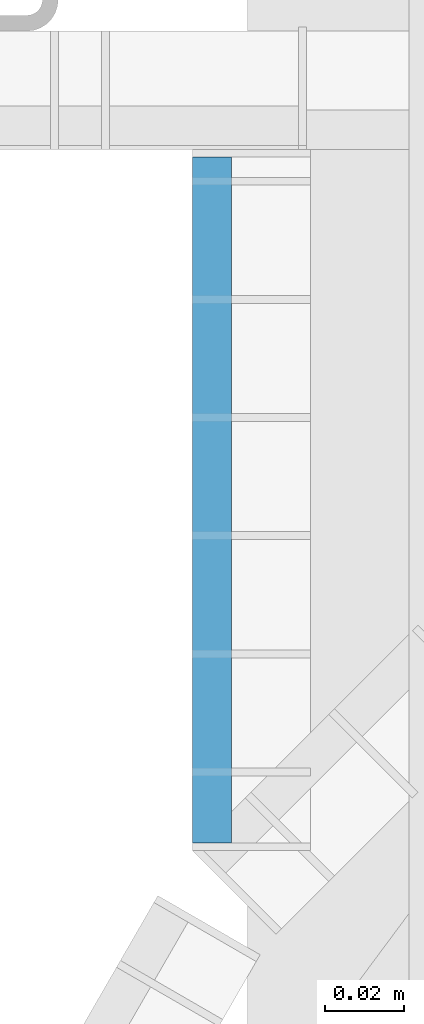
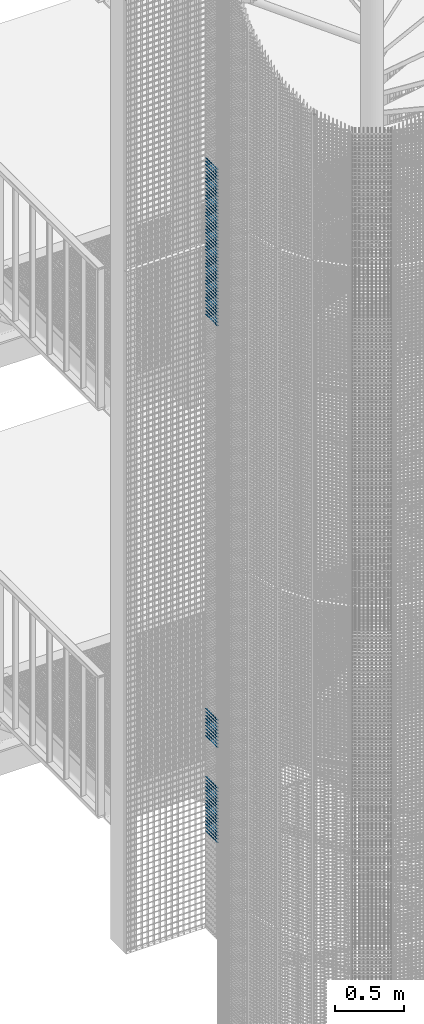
# One storey, part 176 of 1148: 73 beams, 2 elements without a shape of their own.
"""IFC2X3 building model written with IfcOpenShell, lengths in millimetres."""

from ifc_helpers import new_model, si_unit, frame, origin_with_axes, origin_2d_with_axis, place, context, subcontext, project, spatial, rectangle, extrude, material, type_object, element, aggregate, save


model = new_model("IFC2X3")

# Units and contexts
model_context = context("Model", 3, precision=1e-05, world=origin_with_axes())
body_context = subcontext(model_context, "Body", "Model", "MODEL_VIEW")
ifc_project = project(units=[si_unit("LENGTHUNIT", "METRE", prefix="MILLI"), si_unit("AREAUNIT", "SQUARE_METRE"), si_unit("VOLUMEUNIT", "CUBIC_METRE"), si_unit("MASSUNIT", "GRAM", prefix="KILO"), si_unit("TIMEUNIT", "SECOND"), si_unit("PLANEANGLEUNIT", "RADIAN"), si_unit("SOLIDANGLEUNIT", "STERADIAN"), si_unit("THERMODYNAMICTEMPERATUREUNIT", "DEGREE_CELSIUS"), si_unit("LUMINOUSINTENSITYUNIT", "LUMEN")], contexts=[model_context])

# Site, building, storey
site_placement = place(None, origin_with_axes())
site = spatial("IfcSite", under=ifc_project, at=site_placement, Name="Undefined", CompositionType="ELEMENT")
building_placement = place(site_placement, origin_with_axes())
building = spatial("IfcBuilding", under=site, at=building_placement, Name="Undefined", CompositionType="ELEMENT")
storey_placement = place(building_placement, origin_with_axes())
storey = spatial("IfcBuildingStorey", under=building, at=storey_placement, Name="Undefined", CompositionType="ELEMENT", Elevation=0.0)

# Assembly, beams
assembly_1_placement = place(storey_placement, origin_with_axes())
assembly_1 = element("IfcElementAssembly", 1, at=assembly_1_placement, inside=storey, Name="BORDURE", AssemblyPlace="NOTDEFINED", PredefinedType="NOTDEFINED")
ifc_material = material(Name="STEEL/S235JR")
beam_type = type_object("IfcBeamType", Name="PL2*10", PredefinedType="NOTDEFINED")
beam_1_placement = place(assembly_1_placement, frame((-884.882567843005, 867.997017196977, 6510.0), z_axis=(-1.0, 0.0, 0.0), x_axis=(0.0, -1.0, 0.0)))
beam_1 = element("IfcBeam", 2, at=beam_1_placement, type_object=beam_type, material=ifc_material, Name="ENTRETOISE", context=body_context, shape_type="SweptSolid", body=[
    extrude(rectangle(XDim=2.0, YDim=10.0, at=origin_2d_with_axis()), frame((174.109999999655, 0.0, 0.0), z_axis=(-1.0, 0.0, 0.0), x_axis=(0.0, -1.0, 0.0)), (0.0, 0.0, 1.0), 174.11),
])
beam_2_placement = place(assembly_1_placement, frame((-884.882567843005, 867.997017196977, 6480.0), z_axis=(-1.0, 0.0, 0.0), x_axis=(0.0, -1.0, 0.0)))
beam_2 = element("IfcBeam", 3, at=beam_2_placement, type_object=beam_type, material=ifc_material, Name="ENTRETOISE", context=body_context, shape_type="SweptSolid", body=[
    extrude(rectangle(XDim=2.0, YDim=10.0, at=origin_2d_with_axis()), frame((174.109999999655, 0.0, 0.0), z_axis=(-1.0, 0.0, 0.0), x_axis=(0.0, -1.0, 0.0)), (0.0, 0.0, 1.0), 174.11),
])
beam_3_placement = place(assembly_1_placement, frame((-884.882567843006, 867.997017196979, 6870.0), z_axis=(-1.0, 0.0, 0.0), x_axis=(0.0, -1.0, 0.0)))
beam_3 = element("IfcBeam", 4, at=beam_3_placement, type_object=beam_type, material=ifc_material, Name="ENTRETOISE", context=body_context, shape_type="SweptSolid", body=[
    extrude(rectangle(XDim=2.0, YDim=10.0, at=origin_2d_with_axis()), frame((174.109999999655, 0.0, 0.0), z_axis=(-1.0, 0.0, 0.0), x_axis=(0.0, -1.0, 0.0)), (0.0, 0.0, 1.0), 174.11),
])
beam_4_placement = place(assembly_1_placement, frame((-884.882567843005, 867.997017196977, 6450.0), z_axis=(-1.0, 0.0, 0.0), x_axis=(0.0, -1.0, 0.0)))
beam_4 = element("IfcBeam", 5, at=beam_4_placement, type_object=beam_type, material=ifc_material, Name="ENTRETOISE", context=body_context, shape_type="SweptSolid", body=[
    extrude(rectangle(XDim=2.0, YDim=10.0, at=origin_2d_with_axis()), frame((174.109999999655, 0.0, 0.0), z_axis=(-1.0, 0.0, 0.0), x_axis=(0.0, -1.0, 0.0)), (0.0, 0.0, 1.0), 174.11),
])
beam_5_placement = place(assembly_1_placement, frame((-884.882567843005, 867.997017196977, 6420.0), z_axis=(-1.0, 0.0, 0.0), x_axis=(0.0, -1.0, 0.0)))
beam_5 = element("IfcBeam", 6, at=beam_5_placement, type_object=beam_type, material=ifc_material, Name="ENTRETOISE", context=body_context, shape_type="SweptSolid", body=[
    extrude(rectangle(XDim=2.0, YDim=10.0, at=origin_2d_with_axis()), frame((174.109999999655, 0.0, 0.0), z_axis=(-1.0, 0.0, 0.0), x_axis=(0.0, -1.0, 0.0)), (0.0, 0.0, 1.0), 174.11),
])
beam_6_placement = place(assembly_1_placement, frame((-884.882567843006, 867.997017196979, 6900.0), z_axis=(-1.0, 0.0, 0.0), x_axis=(0.0, -1.0, 0.0)))
beam_6 = element("IfcBeam", 7, at=beam_6_placement, type_object=beam_type, material=ifc_material, Name="ENTRETOISE", context=body_context, shape_type="SweptSolid", body=[
    extrude(rectangle(XDim=2.0, YDim=10.0, at=origin_2d_with_axis()), frame((174.109999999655, 0.0, 0.0), z_axis=(-1.0, 0.0, 0.0), x_axis=(0.0, -1.0, 0.0)), (0.0, 0.0, 1.0), 174.11),
])
beam_7_placement = place(assembly_1_placement, frame((-884.882567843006, 867.997017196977, 6390.0), z_axis=(-1.0, 0.0, 0.0), x_axis=(0.0, -1.0, 0.0)))
beam_7 = element("IfcBeam", 8, at=beam_7_placement, type_object=beam_type, material=ifc_material, Name="ENTRETOISE", context=body_context, shape_type="SweptSolid", body=[
    extrude(rectangle(XDim=2.0, YDim=10.0, at=origin_2d_with_axis()), frame((174.109999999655, 0.0, 0.0), z_axis=(-1.0, 0.0, 0.0), x_axis=(0.0, -1.0, 0.0)), (0.0, 0.0, 1.0), 174.11),
])
beam_8_placement = place(assembly_1_placement, frame((-884.882567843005, 867.997017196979, 6930.0), z_axis=(-1.0, 0.0, 0.0), x_axis=(0.0, -1.0, 0.0)))
beam_8 = element("IfcBeam", 9, at=beam_8_placement, type_object=beam_type, material=ifc_material, Name="ENTRETOISE", context=body_context, shape_type="SweptSolid", body=[
    extrude(rectangle(XDim=2.0, YDim=10.0, at=origin_2d_with_axis()), frame((174.109999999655, 0.0, 0.0), z_axis=(-1.0, 0.0, 0.0), x_axis=(0.0, -1.0, 0.0)), (0.0, 0.0, 1.0), 174.11),
])
beam_9_placement = place(assembly_1_placement, frame((-884.882567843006, 867.997017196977, 6360.0), z_axis=(-1.0, 0.0, 0.0), x_axis=(0.0, -1.0, 0.0)))
beam_9 = element("IfcBeam", 10, at=beam_9_placement, type_object=beam_type, material=ifc_material, Name="ENTRETOISE", context=body_context, shape_type="SweptSolid", body=[
    extrude(rectangle(XDim=2.0, YDim=10.0, at=origin_2d_with_axis()), frame((174.109999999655, 0.0, 0.0), z_axis=(-1.0, 0.0, 0.0), x_axis=(0.0, -1.0, 0.0)), (0.0, 0.0, 1.0), 174.11),
])
beam_10_placement = place(assembly_1_placement, frame((-884.882567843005, 867.997017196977, 6330.0), z_axis=(-1.0, 0.0, 0.0), x_axis=(0.0, -1.0, 0.0)))
beam_10 = element("IfcBeam", 11, at=beam_10_placement, type_object=beam_type, material=ifc_material, Name="ENTRETOISE", context=body_context, shape_type="SweptSolid", body=[
    extrude(rectangle(XDim=2.0, YDim=10.0, at=origin_2d_with_axis()), frame((174.109999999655, 0.0, 0.0), z_axis=(-1.0, 0.0, 0.0), x_axis=(0.0, -1.0, 0.0)), (0.0, 0.0, 1.0), 174.11),
])
beam_11_placement = place(assembly_1_placement, frame((-884.882567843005, 867.997017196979, 6960.0), z_axis=(-1.0, 0.0, 0.0), x_axis=(0.0, -1.0, 0.0)))
beam_11 = element("IfcBeam", 12, at=beam_11_placement, type_object=beam_type, material=ifc_material, Name="ENTRETOISE", context=body_context, shape_type="SweptSolid", body=[
    extrude(rectangle(XDim=2.0, YDim=10.0, at=origin_2d_with_axis()), frame((174.109999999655, 0.0, 0.0), z_axis=(-1.0, 0.0, 0.0), x_axis=(0.0, -1.0, 0.0)), (0.0, 0.0, 1.0), 174.11),
])
beam_12_placement = place(assembly_1_placement, frame((-884.882567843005, 867.997017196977, 6300.0), z_axis=(-1.0, 0.0, 0.0), x_axis=(0.0, -1.0, 0.0)))
beam_12 = element("IfcBeam", 13, at=beam_12_placement, type_object=beam_type, material=ifc_material, Name="ENTRETOISE", context=body_context, shape_type="SweptSolid", body=[
    extrude(rectangle(XDim=2.0, YDim=10.0, at=origin_2d_with_axis()), frame((174.109999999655, 0.0, 0.0), z_axis=(-1.0, 0.0, 0.0), x_axis=(0.0, -1.0, 0.0)), (0.0, 0.0, 1.0), 174.11),
])
beam_13_placement = place(assembly_1_placement, frame((-884.882567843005, 867.997017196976, 6270.0), z_axis=(-1.0, 0.0, 0.0), x_axis=(0.0, -1.0, 0.0)))
beam_13 = element("IfcBeam", 14, at=beam_13_placement, type_object=beam_type, material=ifc_material, Name="ENTRETOISE", context=body_context, shape_type="SweptSolid", body=[
    extrude(rectangle(XDim=2.0, YDim=10.0, at=origin_2d_with_axis()), frame((174.109999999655, 0.0, 0.0), z_axis=(-1.0, 0.0, 0.0), x_axis=(0.0, -1.0, 0.0)), (0.0, 0.0, 1.0), 174.11),
])
beam_14_placement = place(assembly_1_placement, frame((-884.882567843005, 867.997017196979, 6990.0), z_axis=(-1.0, 0.0, 0.0), x_axis=(0.0, -1.0, 0.0)))
beam_14 = element("IfcBeam", 15, at=beam_14_placement, type_object=beam_type, material=ifc_material, Name="ENTRETOISE", context=body_context, shape_type="SweptSolid", body=[
    extrude(rectangle(XDim=2.0, YDim=10.0, at=origin_2d_with_axis()), frame((174.109999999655, 0.0, 0.0), z_axis=(-1.0, 0.0, 0.0), x_axis=(0.0, -1.0, 0.0)), (0.0, 0.0, 1.0), 174.11),
])
beam_15_placement = place(assembly_1_placement, frame((-884.882567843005, 867.997017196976, 6240.0), z_axis=(-1.0, 0.0, 0.0), x_axis=(0.0, -1.0, 0.0)))
beam_15 = element("IfcBeam", 16, at=beam_15_placement, type_object=beam_type, material=ifc_material, Name="ENTRETOISE", context=body_context, shape_type="SweptSolid", body=[
    extrude(rectangle(XDim=2.0, YDim=10.0, at=origin_2d_with_axis()), frame((174.109999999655, 0.0, 0.0), z_axis=(-1.0, 0.0, 0.0), x_axis=(0.0, -1.0, 0.0)), (0.0, 0.0, 1.0), 174.11),
])
beam_16_placement = place(assembly_1_placement, frame((-884.882567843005, 867.997017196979, 7020.0), z_axis=(-1.0, 0.0, 0.0), x_axis=(0.0, -1.0, 0.0)))
beam_16 = element("IfcBeam", 17, at=beam_16_placement, type_object=beam_type, material=ifc_material, Name="ENTRETOISE", context=body_context, shape_type="SweptSolid", body=[
    extrude(rectangle(XDim=2.0, YDim=10.0, at=origin_2d_with_axis()), frame((174.109999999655, 0.0, 0.0), z_axis=(-1.0, 0.0, 0.0), x_axis=(0.0, -1.0, 0.0)), (0.0, 0.0, 1.0), 174.11),
])
beam_17_placement = place(assembly_1_placement, frame((-884.882567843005, 867.997017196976, 6210.0), z_axis=(-1.0, 0.0, 0.0), x_axis=(0.0, -1.0, 0.0)))
beam_17 = element("IfcBeam", 18, at=beam_17_placement, type_object=beam_type, material=ifc_material, Name="ENTRETOISE", context=body_context, shape_type="SweptSolid", body=[
    extrude(rectangle(XDim=2.0, YDim=10.0, at=origin_2d_with_axis()), frame((174.109999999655, 0.0, 0.0), z_axis=(-1.0, 0.0, 0.0), x_axis=(0.0, -1.0, 0.0)), (0.0, 0.0, 1.0), 174.11),
])
beam_18_placement = place(assembly_1_placement, frame((-884.882567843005, 867.997017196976, 6180.0), z_axis=(-1.0, 0.0, 0.0), x_axis=(0.0, -1.0, 0.0)))
beam_18 = element("IfcBeam", 19, at=beam_18_placement, type_object=beam_type, material=ifc_material, Name="ENTRETOISE", context=body_context, shape_type="SweptSolid", body=[
    extrude(rectangle(XDim=2.0, YDim=10.0, at=origin_2d_with_axis()), frame((174.109999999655, 0.0, 0.0), z_axis=(-1.0, 0.0, 0.0), x_axis=(0.0, -1.0, 0.0)), (0.0, 0.0, 1.0), 174.11),
])
beam_19_placement = place(assembly_1_placement, frame((-884.882567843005, 867.997017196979, 7050.0), z_axis=(-1.0, 0.0, 0.0), x_axis=(0.0, -1.0, 0.0)))
beam_19 = element("IfcBeam", 20, at=beam_19_placement, type_object=beam_type, material=ifc_material, Name="ENTRETOISE", context=body_context, shape_type="SweptSolid", body=[
    extrude(rectangle(XDim=2.0, YDim=10.0, at=origin_2d_with_axis()), frame((174.109999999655, 0.0, 0.0), z_axis=(-1.0, 0.0, 0.0), x_axis=(0.0, -1.0, 0.0)), (0.0, 0.0, 1.0), 174.11),
])
beam_20_placement = place(assembly_1_placement, frame((-884.882567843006, 867.997017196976, 6150.0), z_axis=(-1.0, 0.0, 0.0), x_axis=(0.0, -1.0, 0.0)))
beam_20 = element("IfcBeam", 21, at=beam_20_placement, type_object=beam_type, material=ifc_material, Name="ENTRETOISE", context=body_context, shape_type="SweptSolid", body=[
    extrude(rectangle(XDim=2.0, YDim=10.0, at=origin_2d_with_axis()), frame((174.109999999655, 0.0, 0.0), z_axis=(-1.0, 0.0, 0.0), x_axis=(0.0, -1.0, 0.0)), (0.0, 0.0, 1.0), 174.11),
])
beam_21_placement = place(assembly_1_placement, frame((-884.882567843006, 867.997017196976, 6120.0), z_axis=(-1.0, 0.0, 0.0), x_axis=(0.0, -1.0, 0.0)))
beam_21 = element("IfcBeam", 22, at=beam_21_placement, type_object=beam_type, material=ifc_material, Name="ENTRETOISE", context=body_context, shape_type="SweptSolid", body=[
    extrude(rectangle(XDim=2.0, YDim=10.0, at=origin_2d_with_axis()), frame((174.109999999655, 0.0, 0.0), z_axis=(-1.0, 0.0, 0.0), x_axis=(0.0, -1.0, 0.0)), (0.0, 0.0, 1.0), 174.11),
])
beam_22_placement = place(assembly_1_placement, frame((-884.882567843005, 867.997017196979, 7080.0), z_axis=(-1.0, 0.0, 0.0), x_axis=(0.0, -1.0, 0.0)))
beam_22 = element("IfcBeam", 23, at=beam_22_placement, type_object=beam_type, material=ifc_material, Name="ENTRETOISE", context=body_context, shape_type="SweptSolid", body=[
    extrude(rectangle(XDim=2.0, YDim=10.0, at=origin_2d_with_axis()), frame((174.109999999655, 0.0, 0.0), z_axis=(-1.0, 0.0, 0.0), x_axis=(0.0, -1.0, 0.0)), (0.0, 0.0, 1.0), 174.11),
])
beam_23_placement = place(assembly_1_placement, frame((-884.882567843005, 867.997017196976, 6090.0), z_axis=(-1.0, 0.0, 0.0), x_axis=(0.0, -1.0, 0.0)))
beam_23 = element("IfcBeam", 24, at=beam_23_placement, type_object=beam_type, material=ifc_material, Name="ENTRETOISE", context=body_context, shape_type="SweptSolid", body=[
    extrude(rectangle(XDim=2.0, YDim=10.0, at=origin_2d_with_axis()), frame((174.109999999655, 0.0, 0.0), z_axis=(-1.0, 0.0, 0.0), x_axis=(0.0, -1.0, 0.0)), (0.0, 0.0, 1.0), 174.11),
])
beam_24_placement = place(assembly_1_placement, frame((-884.882567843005, 867.997017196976, 6060.0), z_axis=(-1.0, 0.0, 0.0), x_axis=(0.0, -1.0, 0.0)))
beam_24 = element("IfcBeam", 25, at=beam_24_placement, type_object=beam_type, material=ifc_material, Name="ENTRETOISE", context=body_context, shape_type="SweptSolid", body=[
    extrude(rectangle(XDim=2.0, YDim=10.0, at=origin_2d_with_axis()), frame((174.109999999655, 0.0, 0.0), z_axis=(-1.0, 0.0, 0.0), x_axis=(0.0, -1.0, 0.0)), (0.0, 0.0, 1.0), 174.11),
])
beam_25_placement = place(assembly_1_placement, frame((-884.882567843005, 867.99701719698, 7110.0), z_axis=(-1.0, 0.0, 0.0), x_axis=(0.0, -1.0, 0.0)))
beam_25 = element("IfcBeam", 26, at=beam_25_placement, type_object=beam_type, material=ifc_material, Name="ENTRETOISE", context=body_context, shape_type="SweptSolid", body=[
    extrude(rectangle(XDim=2.0, YDim=10.0, at=origin_2d_with_axis()), frame((174.109999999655, 0.0, 0.0), z_axis=(-1.0, 0.0, 0.0), x_axis=(0.0, -1.0, 0.0)), (0.0, 0.0, 1.0), 174.11),
])
beam_26_placement = place(assembly_1_placement, frame((-884.882567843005, 867.997017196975, 6030.0), z_axis=(-1.0, 0.0, 0.0), x_axis=(0.0, -1.0, 0.0)))
beam_26 = element("IfcBeam", 27, at=beam_26_placement, type_object=beam_type, material=ifc_material, Name="ENTRETOISE", context=body_context, shape_type="SweptSolid", body=[
    extrude(rectangle(XDim=2.0, YDim=10.0, at=origin_2d_with_axis()), frame((174.109999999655, 0.0, 0.0), z_axis=(-1.0, 0.0, 0.0), x_axis=(0.0, -1.0, 0.0)), (0.0, 0.0, 1.0), 174.11),
])
aggregate(assembly_1, [beam_1, beam_2, beam_3, beam_4, beam_5, beam_6, beam_7, beam_8, beam_9, beam_10, beam_11, beam_12, beam_13, beam_14, beam_15, beam_16, beam_17, beam_18, beam_19, beam_20, beam_21, beam_22, beam_23, beam_24, beam_25, beam_26])

assembly_2_placement = place(storey_placement, origin_with_axes())
assembly_2 = element("IfcElementAssembly", 28, at=assembly_2_placement, inside=storey, Name="BORDURE", AssemblyPlace="NOTDEFINED", PredefinedType="NOTDEFINED")
beam_27_placement = place(assembly_2_placement, frame((-884.882567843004, 867.997017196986, 11970.0), z_axis=(-1.0, 0.0, 0.0), x_axis=(0.0, -1.0, 0.0)))
beam_27 = element("IfcBeam", 29, at=beam_27_placement, type_object=beam_type, material=ifc_material, Name="ENTRETOISE", context=body_context, shape_type="SweptSolid", body=[
    extrude(rectangle(XDim=2.0, YDim=10.0, at=origin_2d_with_axis()), frame((174.109999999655, 0.0, 0.0), z_axis=(-1.0, 0.0, 0.0), x_axis=(0.0, -1.0, 0.0)), (0.0, 0.0, 1.0), 174.11),
])
beam_28_placement = place(assembly_2_placement, frame((-884.882567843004, 867.997017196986, 11940.0), z_axis=(-1.0, 0.0, 0.0), x_axis=(0.0, -1.0, 0.0)))
beam_28 = element("IfcBeam", 30, at=beam_28_placement, type_object=beam_type, material=ifc_material, Name="ENTRETOISE", context=body_context, shape_type="SweptSolid", body=[
    extrude(rectangle(XDim=2.0, YDim=10.0, at=origin_2d_with_axis()), frame((174.109999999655, 0.0, 0.0), z_axis=(-1.0, 0.0, 0.0), x_axis=(0.0, -1.0, 0.0)), (0.0, 0.0, 1.0), 174.11),
])
beam_29_placement = place(assembly_2_placement, frame((-884.882567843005, 867.997017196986, 11910.0), z_axis=(-1.0, 0.0, 0.0), x_axis=(0.0, -1.0, 0.0)))
beam_29 = element("IfcBeam", 31, at=beam_29_placement, type_object=beam_type, material=ifc_material, Name="ENTRETOISE", context=body_context, shape_type="SweptSolid", body=[
    extrude(rectangle(XDim=2.0, YDim=10.0, at=origin_2d_with_axis()), frame((174.109999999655, 0.0, 0.0), z_axis=(-1.0, 0.0, 0.0), x_axis=(0.0, -1.0, 0.0)), (0.0, 0.0, 1.0), 174.11),
])
beam_30_placement = place(assembly_2_placement, frame((-884.882567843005, 867.997017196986, 11880.0), z_axis=(-1.0, 0.0, 0.0), x_axis=(0.0, -1.0, 0.0)))
beam_30 = element("IfcBeam", 32, at=beam_30_placement, type_object=beam_type, material=ifc_material, Name="ENTRETOISE", context=body_context, shape_type="SweptSolid", body=[
    extrude(rectangle(XDim=2.0, YDim=10.0, at=origin_2d_with_axis()), frame((174.109999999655, 0.0, 0.0), z_axis=(-1.0, 0.0, 0.0), x_axis=(0.0, -1.0, 0.0)), (0.0, 0.0, 1.0), 174.11),
])
beam_31_placement = place(assembly_2_placement, frame((-884.882567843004, 867.997017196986, 11850.0), z_axis=(-1.0, 0.0, 0.0), x_axis=(0.0, -1.0, 0.0)))
beam_31 = element("IfcBeam", 33, at=beam_31_placement, type_object=beam_type, material=ifc_material, Name="ENTRETOISE", context=body_context, shape_type="SweptSolid", body=[
    extrude(rectangle(XDim=2.0, YDim=10.0, at=origin_2d_with_axis()), frame((174.109999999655, 0.0, 0.0), z_axis=(-1.0, 0.0, 0.0), x_axis=(0.0, -1.0, 0.0)), (0.0, 0.0, 1.0), 174.11),
])
beam_32_placement = place(assembly_2_placement, frame((-884.882567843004, 867.997017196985, 11820.0), z_axis=(-1.0, 0.0, 0.0), x_axis=(0.0, -1.0, 0.0)))
beam_32 = element("IfcBeam", 34, at=beam_32_placement, type_object=beam_type, material=ifc_material, Name="ENTRETOISE", context=body_context, shape_type="SweptSolid", body=[
    extrude(rectangle(XDim=2.0, YDim=10.0, at=origin_2d_with_axis()), frame((174.109999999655, 0.0, 0.0), z_axis=(-1.0, 0.0, 0.0), x_axis=(0.0, -1.0, 0.0)), (0.0, 0.0, 1.0), 174.11),
])
beam_33_placement = place(assembly_2_placement, frame((-884.882567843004, 867.997017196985, 11790.0), z_axis=(-1.0, 0.0, 0.0), x_axis=(0.0, -1.0, 0.0)))
beam_33 = element("IfcBeam", 35, at=beam_33_placement, type_object=beam_type, material=ifc_material, Name="ENTRETOISE", context=body_context, shape_type="SweptSolid", body=[
    extrude(rectangle(XDim=2.0, YDim=10.0, at=origin_2d_with_axis()), frame((174.109999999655, 0.0, 0.0), z_axis=(-1.0, 0.0, 0.0), x_axis=(0.0, -1.0, 0.0)), (0.0, 0.0, 1.0), 174.11),
])
beam_34_placement = place(assembly_2_placement, frame((-884.882567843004, 867.997017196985, 11760.0), z_axis=(-1.0, 0.0, 0.0), x_axis=(0.0, -1.0, 0.0)))
beam_34 = element("IfcBeam", 36, at=beam_34_placement, type_object=beam_type, material=ifc_material, Name="ENTRETOISE", context=body_context, shape_type="SweptSolid", body=[
    extrude(rectangle(XDim=2.0, YDim=10.0, at=origin_2d_with_axis()), frame((174.109999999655, 0.0, 0.0), z_axis=(-1.0, 0.0, 0.0), x_axis=(0.0, -1.0, 0.0)), (0.0, 0.0, 1.0), 174.11),
])
beam_35_placement = place(assembly_2_placement, frame((-884.882567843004, 867.997017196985, 11730.0), z_axis=(-1.0, 0.0, 0.0), x_axis=(0.0, -1.0, 0.0)))
beam_35 = element("IfcBeam", 37, at=beam_35_placement, type_object=beam_type, material=ifc_material, Name="ENTRETOISE", context=body_context, shape_type="SweptSolid", body=[
    extrude(rectangle(XDim=2.0, YDim=10.0, at=origin_2d_with_axis()), frame((174.109999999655, 0.0, 0.0), z_axis=(-1.0, 0.0, 0.0), x_axis=(0.0, -1.0, 0.0)), (0.0, 0.0, 1.0), 174.11),
])
beam_36_placement = place(assembly_2_placement, frame((-884.882567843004, 867.997017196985, 11700.0), z_axis=(-1.0, 0.0, 0.0), x_axis=(0.0, -1.0, 0.0)))
beam_36 = element("IfcBeam", 38, at=beam_36_placement, type_object=beam_type, material=ifc_material, Name="ENTRETOISE", context=body_context, shape_type="SweptSolid", body=[
    extrude(rectangle(XDim=2.0, YDim=10.0, at=origin_2d_with_axis()), frame((174.109999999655, 0.0, 0.0), z_axis=(-1.0, 0.0, 0.0), x_axis=(0.0, -1.0, 0.0)), (0.0, 0.0, 1.0), 174.11),
])
beam_37_placement = place(assembly_2_placement, frame((-884.882567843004, 867.997017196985, 11670.0), z_axis=(-1.0, 0.0, 0.0), x_axis=(0.0, -1.0, 0.0)))
beam_37 = element("IfcBeam", 39, at=beam_37_placement, type_object=beam_type, material=ifc_material, Name="ENTRETOISE", context=body_context, shape_type="SweptSolid", body=[
    extrude(rectangle(XDim=2.0, YDim=10.0, at=origin_2d_with_axis()), frame((174.109999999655, 0.0, 0.0), z_axis=(-1.0, 0.0, 0.0), x_axis=(0.0, -1.0, 0.0)), (0.0, 0.0, 1.0), 174.11),
])
beam_38_placement = place(assembly_2_placement, frame((-884.882567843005, 867.997017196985, 11640.0), z_axis=(-1.0, 0.0, 0.0), x_axis=(0.0, -1.0, 0.0)))
beam_38 = element("IfcBeam", 40, at=beam_38_placement, type_object=beam_type, material=ifc_material, Name="ENTRETOISE", context=body_context, shape_type="SweptSolid", body=[
    extrude(rectangle(XDim=2.0, YDim=10.0, at=origin_2d_with_axis()), frame((174.109999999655, 0.0, 0.0), z_axis=(-1.0, 0.0, 0.0), x_axis=(0.0, -1.0, 0.0)), (0.0, 0.0, 1.0), 174.11),
])
beam_39_placement = place(assembly_2_placement, frame((-884.882567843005, 867.997017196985, 11610.0), z_axis=(-1.0, 0.0, 0.0), x_axis=(0.0, -1.0, 0.0)))
beam_39 = element("IfcBeam", 41, at=beam_39_placement, type_object=beam_type, material=ifc_material, Name="ENTRETOISE", context=body_context, shape_type="SweptSolid", body=[
    extrude(rectangle(XDim=2.0, YDim=10.0, at=origin_2d_with_axis()), frame((174.109999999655, 0.0, 0.0), z_axis=(-1.0, 0.0, 0.0), x_axis=(0.0, -1.0, 0.0)), (0.0, 0.0, 1.0), 174.11),
])
beam_40_placement = place(assembly_2_placement, frame((-884.882567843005, 867.997017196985, 11580.0), z_axis=(-1.0, 0.0, 0.0), x_axis=(0.0, -1.0, 0.0)))
beam_40 = element("IfcBeam", 42, at=beam_40_placement, type_object=beam_type, material=ifc_material, Name="ENTRETOISE", context=body_context, shape_type="SweptSolid", body=[
    extrude(rectangle(XDim=2.0, YDim=10.0, at=origin_2d_with_axis()), frame((174.109999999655, 0.0, 0.0), z_axis=(-1.0, 0.0, 0.0), x_axis=(0.0, -1.0, 0.0)), (0.0, 0.0, 1.0), 174.11),
])
beam_41_placement = place(assembly_2_placement, frame((-884.882567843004, 867.997017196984, 11550.0), z_axis=(-1.0, 0.0, 0.0), x_axis=(0.0, -1.0, 0.0)))
beam_41 = element("IfcBeam", 43, at=beam_41_placement, type_object=beam_type, material=ifc_material, Name="ENTRETOISE", context=body_context, shape_type="SweptSolid", body=[
    extrude(rectangle(XDim=2.0, YDim=10.0, at=origin_2d_with_axis()), frame((174.109999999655, 0.0, 0.0), z_axis=(-1.0, 0.0, 0.0), x_axis=(0.0, -1.0, 0.0)), (0.0, 0.0, 1.0), 174.11),
])
beam_42_placement = place(assembly_2_placement, frame((-884.882567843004, 867.997017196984, 11520.0), z_axis=(-1.0, 0.0, 0.0), x_axis=(0.0, -1.0, 0.0)))
beam_42 = element("IfcBeam", 44, at=beam_42_placement, type_object=beam_type, material=ifc_material, Name="ENTRETOISE", context=body_context, shape_type="SweptSolid", body=[
    extrude(rectangle(XDim=2.0, YDim=10.0, at=origin_2d_with_axis()), frame((174.109999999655, 0.0, 0.0), z_axis=(-1.0, 0.0, 0.0), x_axis=(0.0, -1.0, 0.0)), (0.0, 0.0, 1.0), 174.11),
])
beam_43_placement = place(assembly_2_placement, frame((-884.882567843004, 867.997017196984, 11490.0), z_axis=(-1.0, 0.0, 0.0), x_axis=(0.0, -1.0, 0.0)))
beam_43 = element("IfcBeam", 45, at=beam_43_placement, type_object=beam_type, material=ifc_material, Name="ENTRETOISE", context=body_context, shape_type="SweptSolid", body=[
    extrude(rectangle(XDim=2.0, YDim=10.0, at=origin_2d_with_axis()), frame((174.109999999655, 0.0, 0.0), z_axis=(-1.0, 0.0, 0.0), x_axis=(0.0, -1.0, 0.0)), (0.0, 0.0, 1.0), 174.11),
])
beam_44_placement = place(assembly_2_placement, frame((-884.882567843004, 867.997017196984, 11460.0), z_axis=(-1.0, 0.0, 0.0), x_axis=(0.0, -1.0, 0.0)))
beam_44 = element("IfcBeam", 46, at=beam_44_placement, type_object=beam_type, material=ifc_material, Name="ENTRETOISE", context=body_context, shape_type="SweptSolid", body=[
    extrude(rectangle(XDim=2.0, YDim=10.0, at=origin_2d_with_axis()), frame((174.109999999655, 0.0, 0.0), z_axis=(-1.0, 0.0, 0.0), x_axis=(0.0, -1.0, 0.0)), (0.0, 0.0, 1.0), 174.11),
])
beam_45_placement = place(assembly_2_placement, frame((-884.882567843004, 867.997017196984, 11430.0), z_axis=(-1.0, 0.0, 0.0), x_axis=(0.0, -1.0, 0.0)))
beam_45 = element("IfcBeam", 47, at=beam_45_placement, type_object=beam_type, material=ifc_material, Name="ENTRETOISE", context=body_context, shape_type="SweptSolid", body=[
    extrude(rectangle(XDim=2.0, YDim=10.0, at=origin_2d_with_axis()), frame((174.109999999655, 0.0, 0.0), z_axis=(-1.0, 0.0, 0.0), x_axis=(0.0, -1.0, 0.0)), (0.0, 0.0, 1.0), 174.11),
])
beam_46_placement = place(assembly_2_placement, frame((-884.882567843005, 867.997017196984, 11400.0), z_axis=(-1.0, 0.0, 0.0), x_axis=(0.0, -1.0, 0.0)))
beam_46 = element("IfcBeam", 48, at=beam_46_placement, type_object=beam_type, material=ifc_material, Name="ENTRETOISE", context=body_context, shape_type="SweptSolid", body=[
    extrude(rectangle(XDim=2.0, YDim=10.0, at=origin_2d_with_axis()), frame((174.109999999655, 0.0, 0.0), z_axis=(-1.0, 0.0, 0.0), x_axis=(0.0, -1.0, 0.0)), (0.0, 0.0, 1.0), 174.11),
])
beam_47_placement = place(assembly_2_placement, frame((-884.882567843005, 867.997017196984, 11370.0), z_axis=(-1.0, 0.0, 0.0), x_axis=(0.0, -1.0, 0.0)))
beam_47 = element("IfcBeam", 49, at=beam_47_placement, type_object=beam_type, material=ifc_material, Name="ENTRETOISE", context=body_context, shape_type="SweptSolid", body=[
    extrude(rectangle(XDim=2.0, YDim=10.0, at=origin_2d_with_axis()), frame((174.109999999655, 0.0, 0.0), z_axis=(-1.0, 0.0, 0.0), x_axis=(0.0, -1.0, 0.0)), (0.0, 0.0, 1.0), 174.11),
])
beam_48_placement = place(assembly_2_placement, frame((-884.882567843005, 867.997017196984, 11340.0), z_axis=(-1.0, 0.0, 0.0), x_axis=(0.0, -1.0, 0.0)))
beam_48 = element("IfcBeam", 50, at=beam_48_placement, type_object=beam_type, material=ifc_material, Name="ENTRETOISE", context=body_context, shape_type="SweptSolid", body=[
    extrude(rectangle(XDim=2.0, YDim=10.0, at=origin_2d_with_axis()), frame((174.109999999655, 0.0, 0.0), z_axis=(-1.0, 0.0, 0.0), x_axis=(0.0, -1.0, 0.0)), (0.0, 0.0, 1.0), 174.11),
])
beam_49_placement = place(assembly_2_placement, frame((-884.882567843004, 867.997017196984, 11310.0), z_axis=(-1.0, 0.0, 0.0), x_axis=(0.0, -1.0, 0.0)))
beam_49 = element("IfcBeam", 51, at=beam_49_placement, type_object=beam_type, material=ifc_material, Name="ENTRETOISE", context=body_context, shape_type="SweptSolid", body=[
    extrude(rectangle(XDim=2.0, YDim=10.0, at=origin_2d_with_axis()), frame((174.109999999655, 0.0, 0.0), z_axis=(-1.0, 0.0, 0.0), x_axis=(0.0, -1.0, 0.0)), (0.0, 0.0, 1.0), 174.11),
])
beam_50_placement = place(assembly_2_placement, frame((-884.882567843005, 867.997017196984, 11280.0), z_axis=(-1.0, 0.0, 0.0), x_axis=(0.0, -1.0, 0.0)))
beam_50 = element("IfcBeam", 52, at=beam_50_placement, type_object=beam_type, material=ifc_material, Name="ENTRETOISE", context=body_context, shape_type="SweptSolid", body=[
    extrude(rectangle(XDim=2.0, YDim=10.0, at=origin_2d_with_axis()), frame((174.109999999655, 0.0, 0.0), z_axis=(-1.0, 0.0, 0.0), x_axis=(0.0, -1.0, 0.0)), (0.0, 0.0, 1.0), 174.11),
])
beam_51_placement = place(assembly_2_placement, frame((-884.882567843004, 867.997017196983, 11250.0), z_axis=(-1.0, 0.0, 0.0), x_axis=(0.0, -1.0, 0.0)))
beam_51 = element("IfcBeam", 53, at=beam_51_placement, type_object=beam_type, material=ifc_material, Name="ENTRETOISE", context=body_context, shape_type="SweptSolid", body=[
    extrude(rectangle(XDim=2.0, YDim=10.0, at=origin_2d_with_axis()), frame((174.109999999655, 0.0, 0.0), z_axis=(-1.0, 0.0, 0.0), x_axis=(0.0, -1.0, 0.0)), (0.0, 0.0, 1.0), 174.11),
])
beam_52_placement = place(assembly_2_placement, frame((-884.882567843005, 867.997017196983, 11220.0), z_axis=(-1.0, 0.0, 0.0), x_axis=(0.0, -1.0, 0.0)))
beam_52 = element("IfcBeam", 54, at=beam_52_placement, type_object=beam_type, material=ifc_material, Name="ENTRETOISE", context=body_context, shape_type="SweptSolid", body=[
    extrude(rectangle(XDim=2.0, YDim=10.0, at=origin_2d_with_axis()), frame((174.109999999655, 0.0, 0.0), z_axis=(-1.0, 0.0, 0.0), x_axis=(0.0, -1.0, 0.0)), (0.0, 0.0, 1.0), 174.11),
])
beam_53_placement = place(assembly_2_placement, frame((-884.882567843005, 867.997017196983, 11190.0), z_axis=(-1.0, 0.0, 0.0), x_axis=(0.0, -1.0, 0.0)))
beam_53 = element("IfcBeam", 55, at=beam_53_placement, type_object=beam_type, material=ifc_material, Name="ENTRETOISE", context=body_context, shape_type="SweptSolid", body=[
    extrude(rectangle(XDim=2.0, YDim=10.0, at=origin_2d_with_axis()), frame((174.109999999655, 0.0, 0.0), z_axis=(-1.0, 0.0, 0.0), x_axis=(0.0, -1.0, 0.0)), (0.0, 0.0, 1.0), 174.11),
])
beam_54_placement = place(assembly_2_placement, frame((-884.882567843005, 867.997017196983, 11160.0), z_axis=(-1.0, 0.0, 0.0), x_axis=(0.0, -1.0, 0.0)))
beam_54 = element("IfcBeam", 56, at=beam_54_placement, type_object=beam_type, material=ifc_material, Name="ENTRETOISE", context=body_context, shape_type="SweptSolid", body=[
    extrude(rectangle(XDim=2.0, YDim=10.0, at=origin_2d_with_axis()), frame((174.109999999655, 0.0, 0.0), z_axis=(-1.0, 0.0, 0.0), x_axis=(0.0, -1.0, 0.0)), (0.0, 0.0, 1.0), 174.11),
])
beam_55_placement = place(assembly_2_placement, frame((-884.882567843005, 867.997017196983, 11130.0), z_axis=(-1.0, 0.0, 0.0), x_axis=(0.0, -1.0, 0.0)))
beam_55 = element("IfcBeam", 57, at=beam_55_placement, type_object=beam_type, material=ifc_material, Name="ENTRETOISE", context=body_context, shape_type="SweptSolid", body=[
    extrude(rectangle(XDim=2.0, YDim=10.0, at=origin_2d_with_axis()), frame((174.109999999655, 0.0, 0.0), z_axis=(-1.0, 0.0, 0.0), x_axis=(0.0, -1.0, 0.0)), (0.0, 0.0, 1.0), 174.11),
])
beam_56_placement = place(assembly_2_placement, frame((-884.882567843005, 867.997017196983, 11100.0), z_axis=(-1.0, 0.0, 0.0), x_axis=(0.0, -1.0, 0.0)))
beam_56 = element("IfcBeam", 58, at=beam_56_placement, type_object=beam_type, material=ifc_material, Name="ENTRETOISE", context=body_context, shape_type="SweptSolid", body=[
    extrude(rectangle(XDim=2.0, YDim=10.0, at=origin_2d_with_axis()), frame((174.109999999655, 0.0, 0.0), z_axis=(-1.0, 0.0, 0.0), x_axis=(0.0, -1.0, 0.0)), (0.0, 0.0, 1.0), 174.11),
])
beam_57_placement = place(assembly_2_placement, frame((-884.882567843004, 867.997017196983, 11070.0), z_axis=(-1.0, 0.0, 0.0), x_axis=(0.0, -1.0, 0.0)))
beam_57 = element("IfcBeam", 59, at=beam_57_placement, type_object=beam_type, material=ifc_material, Name="ENTRETOISE", context=body_context, shape_type="SweptSolid", body=[
    extrude(rectangle(XDim=2.0, YDim=10.0, at=origin_2d_with_axis()), frame((174.109999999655, 0.0, 0.0), z_axis=(-1.0, 0.0, 0.0), x_axis=(0.0, -1.0, 0.0)), (0.0, 0.0, 1.0), 174.11),
])
beam_58_placement = place(assembly_2_placement, frame((-884.882567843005, 867.997017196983, 11040.0), z_axis=(-1.0, 0.0, 0.0), x_axis=(0.0, -1.0, 0.0)))
beam_58 = element("IfcBeam", 60, at=beam_58_placement, type_object=beam_type, material=ifc_material, Name="ENTRETOISE", context=body_context, shape_type="SweptSolid", body=[
    extrude(rectangle(XDim=2.0, YDim=10.0, at=origin_2d_with_axis()), frame((174.109999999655, 0.0, 0.0), z_axis=(-1.0, 0.0, 0.0), x_axis=(0.0, -1.0, 0.0)), (0.0, 0.0, 1.0), 174.11),
])
beam_59_placement = place(assembly_2_placement, frame((-884.882567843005, 867.997017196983, 11010.0), z_axis=(-1.0, 0.0, 0.0), x_axis=(0.0, -1.0, 0.0)))
beam_59 = element("IfcBeam", 61, at=beam_59_placement, type_object=beam_type, material=ifc_material, Name="ENTRETOISE", context=body_context, shape_type="SweptSolid", body=[
    extrude(rectangle(XDim=2.0, YDim=10.0, at=origin_2d_with_axis()), frame((174.109999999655, 0.0, 0.0), z_axis=(-1.0, 0.0, 0.0), x_axis=(0.0, -1.0, 0.0)), (0.0, 0.0, 1.0), 174.11),
])
beam_60_placement = place(assembly_2_placement, frame((-884.882567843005, 867.997017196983, 10980.0), z_axis=(-1.0, 0.0, 0.0), x_axis=(0.0, -1.0, 0.0)))
beam_60 = element("IfcBeam", 62, at=beam_60_placement, type_object=beam_type, material=ifc_material, Name="ENTRETOISE", context=body_context, shape_type="SweptSolid", body=[
    extrude(rectangle(XDim=2.0, YDim=10.0, at=origin_2d_with_axis()), frame((174.109999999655, 0.0, 0.0), z_axis=(-1.0, 0.0, 0.0), x_axis=(0.0, -1.0, 0.0)), (0.0, 0.0, 1.0), 174.11),
])
beam_61_placement = place(assembly_2_placement, frame((-884.882567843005, 867.997017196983, 10950.0), z_axis=(-1.0, 0.0, 0.0), x_axis=(0.0, -1.0, 0.0)))
beam_61 = element("IfcBeam", 63, at=beam_61_placement, type_object=beam_type, material=ifc_material, Name="ENTRETOISE", context=body_context, shape_type="SweptSolid", body=[
    extrude(rectangle(XDim=2.0, YDim=10.0, at=origin_2d_with_axis()), frame((174.109999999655, 0.0, 0.0), z_axis=(-1.0, 0.0, 0.0), x_axis=(0.0, -1.0, 0.0)), (0.0, 0.0, 1.0), 174.11),
])
beam_62_placement = place(assembly_2_placement, frame((-884.882567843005, 867.997017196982, 10920.0), z_axis=(-1.0, 0.0, 0.0), x_axis=(0.0, -1.0, 0.0)))
beam_62 = element("IfcBeam", 64, at=beam_62_placement, type_object=beam_type, material=ifc_material, Name="ENTRETOISE", context=body_context, shape_type="SweptSolid", body=[
    extrude(rectangle(XDim=2.0, YDim=10.0, at=origin_2d_with_axis()), frame((174.109999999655, 0.0, 0.0), z_axis=(-1.0, 0.0, 0.0), x_axis=(0.0, -1.0, 0.0)), (0.0, 0.0, 1.0), 174.11),
])
beam_63_placement = place(assembly_2_placement, frame((-884.882567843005, 867.997017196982, 10890.0), z_axis=(-1.0, 0.0, 0.0), x_axis=(0.0, -1.0, 0.0)))
beam_63 = element("IfcBeam", 65, at=beam_63_placement, type_object=beam_type, material=ifc_material, Name="ENTRETOISE", context=body_context, shape_type="SweptSolid", body=[
    extrude(rectangle(XDim=2.0, YDim=10.0, at=origin_2d_with_axis()), frame((174.109999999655, 0.0, 0.0), z_axis=(-1.0, 0.0, 0.0), x_axis=(0.0, -1.0, 0.0)), (0.0, 0.0, 1.0), 174.11),
])
beam_64_placement = place(assembly_2_placement, frame((-884.882567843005, 867.997017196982, 10860.0), z_axis=(-1.0, 0.0, 0.0), x_axis=(0.0, -1.0, 0.0)))
beam_64 = element("IfcBeam", 66, at=beam_64_placement, type_object=beam_type, material=ifc_material, Name="ENTRETOISE", context=body_context, shape_type="SweptSolid", body=[
    extrude(rectangle(XDim=2.0, YDim=10.0, at=origin_2d_with_axis()), frame((174.109999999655, 0.0, 0.0), z_axis=(-1.0, 0.0, 0.0), x_axis=(0.0, -1.0, 0.0)), (0.0, 0.0, 1.0), 174.11),
])
beam_65_placement = place(assembly_2_placement, frame((-884.882567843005, 867.997017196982, 10830.0), z_axis=(-1.0, 0.0, 0.0), x_axis=(0.0, -1.0, 0.0)))
beam_65 = element("IfcBeam", 67, at=beam_65_placement, type_object=beam_type, material=ifc_material, Name="ENTRETOISE", context=body_context, shape_type="SweptSolid", body=[
    extrude(rectangle(XDim=2.0, YDim=10.0, at=origin_2d_with_axis()), frame((174.109999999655, 0.0, 0.0), z_axis=(-1.0, 0.0, 0.0), x_axis=(0.0, -1.0, 0.0)), (0.0, 0.0, 1.0), 174.11),
])
beam_66_placement = place(assembly_2_placement, frame((-884.882567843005, 867.997017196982, 10800.0), z_axis=(-1.0, 0.0, 0.0), x_axis=(0.0, -1.0, 0.0)))
beam_66 = element("IfcBeam", 68, at=beam_66_placement, type_object=beam_type, material=ifc_material, Name="ENTRETOISE", context=body_context, shape_type="SweptSolid", body=[
    extrude(rectangle(XDim=2.0, YDim=10.0, at=origin_2d_with_axis()), frame((174.109999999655, 0.0, 0.0), z_axis=(-1.0, 0.0, 0.0), x_axis=(0.0, -1.0, 0.0)), (0.0, 0.0, 1.0), 174.11),
])
beam_67_placement = place(assembly_2_placement, frame((-884.882567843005, 867.997017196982, 10770.0), z_axis=(-1.0, 0.0, 0.0), x_axis=(0.0, -1.0, 0.0)))
beam_67 = element("IfcBeam", 69, at=beam_67_placement, type_object=beam_type, material=ifc_material, Name="ENTRETOISE", context=body_context, shape_type="SweptSolid", body=[
    extrude(rectangle(XDim=2.0, YDim=10.0, at=origin_2d_with_axis()), frame((174.109999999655, 0.0, 0.0), z_axis=(-1.0, 0.0, 0.0), x_axis=(0.0, -1.0, 0.0)), (0.0, 0.0, 1.0), 174.11),
])
beam_68_placement = place(assembly_2_placement, frame((-884.882567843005, 867.997017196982, 10740.0), z_axis=(-1.0, 0.0, 0.0), x_axis=(0.0, -1.0, 0.0)))
beam_68 = element("IfcBeam", 70, at=beam_68_placement, type_object=beam_type, material=ifc_material, Name="ENTRETOISE", context=body_context, shape_type="SweptSolid", body=[
    extrude(rectangle(XDim=2.0, YDim=10.0, at=origin_2d_with_axis()), frame((174.109999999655, 0.0, 0.0), z_axis=(-1.0, 0.0, 0.0), x_axis=(0.0, -1.0, 0.0)), (0.0, 0.0, 1.0), 174.11),
])
beam_69_placement = place(assembly_2_placement, frame((-884.882567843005, 867.997017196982, 10710.0), z_axis=(-1.0, 0.0, 0.0), x_axis=(0.0, -1.0, 0.0)))
beam_69 = element("IfcBeam", 71, at=beam_69_placement, type_object=beam_type, material=ifc_material, Name="ENTRETOISE", context=body_context, shape_type="SweptSolid", body=[
    extrude(rectangle(XDim=2.0, YDim=10.0, at=origin_2d_with_axis()), frame((174.109999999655, 0.0, 0.0), z_axis=(-1.0, 0.0, 0.0), x_axis=(0.0, -1.0, 0.0)), (0.0, 0.0, 1.0), 174.11),
])
beam_70_placement = place(assembly_2_placement, frame((-884.882567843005, 867.997017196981, 10680.0), z_axis=(-1.0, 0.0, 0.0), x_axis=(0.0, -1.0, 0.0)))
beam_70 = element("IfcBeam", 72, at=beam_70_placement, type_object=beam_type, material=ifc_material, Name="ENTRETOISE", context=body_context, shape_type="SweptSolid", body=[
    extrude(rectangle(XDim=2.0, YDim=10.0, at=origin_2d_with_axis()), frame((174.109999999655, 0.0, 0.0), z_axis=(-1.0, 0.0, 0.0), x_axis=(0.0, -1.0, 0.0)), (0.0, 0.0, 1.0), 174.11),
])
beam_71_placement = place(assembly_2_placement, frame((-884.882567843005, 867.997017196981, 10650.0), z_axis=(-1.0, 0.0, 0.0), x_axis=(0.0, -1.0, 0.0)))
beam_71 = element("IfcBeam", 73, at=beam_71_placement, type_object=beam_type, material=ifc_material, Name="ENTRETOISE", context=body_context, shape_type="SweptSolid", body=[
    extrude(rectangle(XDim=2.0, YDim=10.0, at=origin_2d_with_axis()), frame((174.109999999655, 0.0, 0.0), z_axis=(-1.0, 0.0, 0.0), x_axis=(0.0, -1.0, 0.0)), (0.0, 0.0, 1.0), 174.11),
])
beam_72_placement = place(assembly_2_placement, frame((-884.882567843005, 867.997017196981, 10620.0), z_axis=(-1.0, 0.0, 0.0), x_axis=(0.0, -1.0, 0.0)))
beam_72 = element("IfcBeam", 74, at=beam_72_placement, type_object=beam_type, material=ifc_material, Name="ENTRETOISE", context=body_context, shape_type="SweptSolid", body=[
    extrude(rectangle(XDim=2.0, YDim=10.0, at=origin_2d_with_axis()), frame((174.109999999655, 0.0, 0.0), z_axis=(-1.0, 0.0, 0.0), x_axis=(0.0, -1.0, 0.0)), (0.0, 0.0, 1.0), 174.11),
])
beam_73_placement = place(assembly_2_placement, frame((-884.882567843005, 867.997017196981, 10590.0), z_axis=(-1.0, 0.0, 0.0), x_axis=(0.0, -1.0, 0.0)))
beam_73 = element("IfcBeam", 75, at=beam_73_placement, type_object=beam_type, material=ifc_material, Name="ENTRETOISE", context=body_context, shape_type="SweptSolid", body=[
    extrude(rectangle(XDim=2.0, YDim=10.0, at=origin_2d_with_axis()), frame((174.109999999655, 0.0, 0.0), z_axis=(-1.0, 0.0, 0.0), x_axis=(0.0, -1.0, 0.0)), (0.0, 0.0, 1.0), 174.11),
])
aggregate(assembly_2, [beam_27, beam_28, beam_29, beam_30, beam_31, beam_32, beam_33, beam_34, beam_35, beam_36, beam_37, beam_38, beam_39, beam_40, beam_41, beam_42, beam_43, beam_44, beam_45, beam_46, beam_47, beam_48, beam_49, beam_50, beam_51, beam_52, beam_53, beam_54, beam_55, beam_56, beam_57, beam_58, beam_59, beam_60, beam_61, beam_62, beam_63, beam_64, beam_65, beam_66, beam_67, beam_68, beam_69, beam_70, beam_71, beam_72, beam_73])

save(model, "model.ifc")
